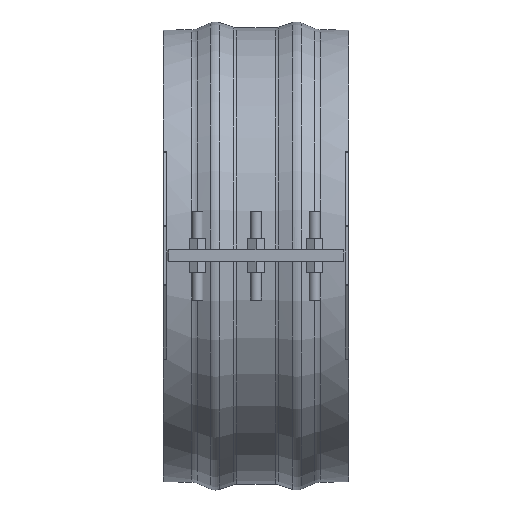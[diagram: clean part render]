
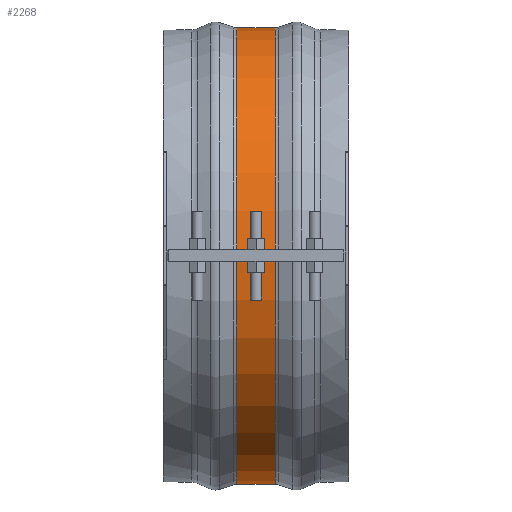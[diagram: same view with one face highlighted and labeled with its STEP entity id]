
A CAD part, top view. The second image highlights one B-rep face of the part: STEP entity #2268.
In plain terms, the highlighted cylindrical face has radius 390.827 mm (diameter 781.654 mm), a partial arc.
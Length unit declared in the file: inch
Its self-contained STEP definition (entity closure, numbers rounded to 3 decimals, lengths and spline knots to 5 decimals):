
#266=FACE_OUTER_BOUND('',#395,.T.);
#395=EDGE_LOOP('',(#1872,#1873,#1874,#1875));
#597=LINE('',#3675,#788);
#602=LINE('',#3760,#793);
#788=VECTOR('',#2968,0.3937);
#793=VECTOR('',#2977,0.3937);
#848=CIRCLE('',#2449,15.38689);
#849=CIRCLE('',#2451,15.38689);
#1054=VERTEX_POINT('',#3667);
#1055=VERTEX_POINT('',#3674);
#1066=VERTEX_POINT('',#3752);
#1067=VERTEX_POINT('',#3759);
#1333=EDGE_CURVE('',#1055,#1054,#597,.T.);
#1348=EDGE_CURVE('',#1067,#1066,#602,.T.);
#1360=EDGE_CURVE('',#1055,#1066,#848,.T.);
#1361=EDGE_CURVE('',#1054,#1067,#849,.T.);
#1872=ORIENTED_EDGE('',*,*,#1333,.T.);
#1873=ORIENTED_EDGE('',*,*,#1361,.T.);
#1874=ORIENTED_EDGE('',*,*,#1348,.T.);
#1875=ORIENTED_EDGE('',*,*,#1360,.F.);
#2053=CYLINDRICAL_SURFACE('',#2450,15.38689);
#2268=ADVANCED_FACE('',(#266),#2053,.T.);
#2449=AXIS2_PLACEMENT_3D('',#3810,#2999,#3000);
#2450=AXIS2_PLACEMENT_3D('',#3811,#3001,#3002);
#2451=AXIS2_PLACEMENT_3D('',#3812,#3003,#3004);
#2968=DIRECTION('',(-1.,0.,0.));
#2977=DIRECTION('',(1.,0.,0.));
#2999=DIRECTION('center_axis',(1.,0.,0.));
#3000=DIRECTION('ref_axis',(0.,0.,-1.));
#3001=DIRECTION('center_axis',(1.,0.,0.));
#3002=DIRECTION('ref_axis',(0.,0.,
-1.));
#3003=DIRECTION('center_axis',(1.,0.,0.));
#3004=DIRECTION('ref_axis',(0.,0.,-1.));
#3667=CARTESIAN_POINT('',(-1.31451,-0.375,15.38232));
#3674=CARTESIAN_POINT('',(1.31451,-0.375,15.38232));
#3675=CARTESIAN_POINT('',(0.,-0.375,15.38232));
#3752=CARTESIAN_POINT('',(1.31451,0.375,15.38232));
#3759=CARTESIAN_POINT('',(-1.31451,0.375,15.38232));
#3760=CARTESIAN_POINT('',(0.,0.375,15.38232));
#3810=CARTESIAN_POINT('Origin',(1.31451,0.,0.));
#3811=CARTESIAN_POINT('Origin',(0.,0.,0.));
#3812=CARTESIAN_POINT('Origin',(-1.31451,0.,
0.));
